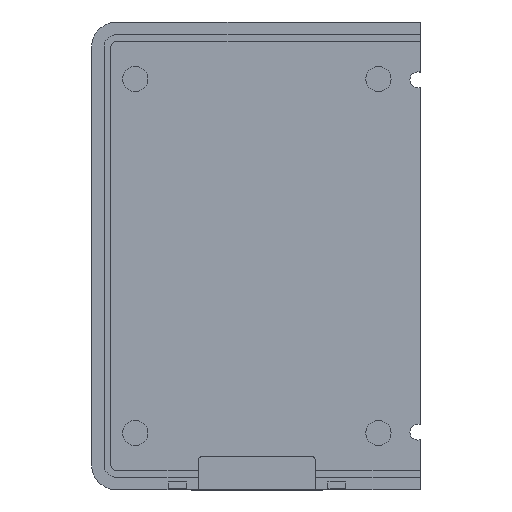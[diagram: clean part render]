
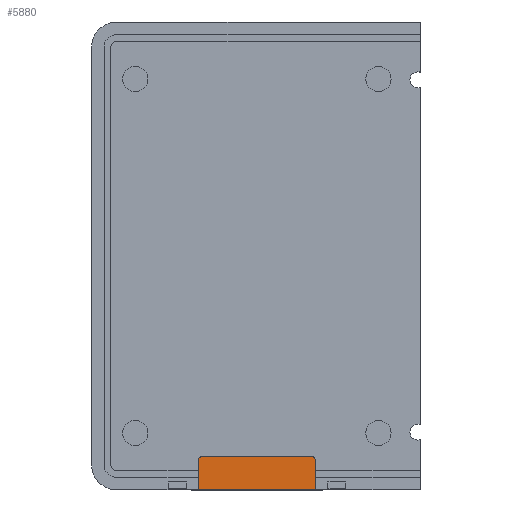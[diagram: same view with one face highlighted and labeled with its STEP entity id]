
A CAD part, top view. The second image highlights one B-rep face of the part: STEP entity #5880.
In plain terms, the highlighted planar face has unit normal (0, 0, 1).
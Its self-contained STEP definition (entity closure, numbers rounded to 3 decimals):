
#186 = PLANE('',#187);
#187 = AXIS2_PLACEMENT_3D('',#188,#189,#190);
#188 = CARTESIAN_POINT('',(-39.5,-27.9,1.));
#189 = DIRECTION('',(-0.,1.,-0.));
#190 = DIRECTION('',(0.,0.,1.));
#1141 = PLANE('',#1142);
#1142 = AXIS2_PLACEMENT_3D('',#1143,#1144,#1145);
#1143 = CARTESIAN_POINT('',(-26.8,-31.9,7.25));
#1144 = DIRECTION('',(1.,0.,-0.));
#1145 = DIRECTION('',(0.,0.,1.));
#2926 = VERTEX_POINT('',#2927);
#2927 = CARTESIAN_POINT('',(-12.8,-27.9,0.25));
#2941 = PLANE('',#2942);
#2942 = AXIS2_PLACEMENT_3D('',#2943,#2944,#2945);
#2943 = CARTESIAN_POINT('',(-12.8,-31.9,7.25));
#2944 = DIRECTION('',(1.,0.,-0.));
#2945 = DIRECTION('',(0.,0.,1.));
#2953 = EDGE_CURVE('',#2954,#2926,#2956,.T.);
#2954 = VERTEX_POINT('',#2955);
#2955 = CARTESIAN_POINT('',(-26.8,-27.9,0.25));
#2956 = SURFACE_CURVE('',#2957,(#2961,#2968),.PCURVE_S1.);
#2957 = LINE('',#2958,#2959);
#2958 = CARTESIAN_POINT('',(-33.15,-27.9,0.25));
#2959 = VECTOR('',#2960,1.);
#2960 = DIRECTION('',(1.,-0.,-0.));
#2961 = PCURVE('',#186,#2962);
#2962 = DEFINITIONAL_REPRESENTATION('',(#2963),#2967);
#2963 = LINE('',#2964,#2965);
#2964 = CARTESIAN_POINT('',(-0.75,6.35));
#2965 = VECTOR('',#2966,1.);
#2966 = DIRECTION('',(-0.,1.));
#2967 = ( GEOMETRIC_REPRESENTATION_CONTEXT(2) 
PARAMETRIC_REPRESENTATION_CONTEXT() REPRESENTATION_CONTEXT('2D SPACE',''
  ) );
#2968 = PCURVE('',#2969,#2974);
#2969 = PLANE('',#2970);
#2970 = AXIS2_PLACEMENT_3D('',#2971,#2972,#2973);
#2971 = CARTESIAN_POINT('',(-26.8,-31.9,0.25));
#2972 = DIRECTION('',(0.,-0.,-1.));
#2973 = DIRECTION('',(-1.,0.,0.));
#2974 = DEFINITIONAL_REPRESENTATION('',(#2975),#2979);
#2975 = LINE('',#2976,#2977);
#2976 = CARTESIAN_POINT('',(6.35,4.));
#2977 = VECTOR('',#2978,1.);
#2978 = DIRECTION('',(-1.,0.));
#2979 = ( GEOMETRIC_REPRESENTATION_CONTEXT(2) 
PARAMETRIC_REPRESENTATION_CONTEXT() REPRESENTATION_CONTEXT('2D SPACE',''
  ) );
#3976 = EDGE_CURVE('',#2954,#3977,#3979,.T.);
#3977 = VERTEX_POINT('',#3978);
#3978 = CARTESIAN_POINT('',(-26.8,-24.4,0.25));
#3979 = SURFACE_CURVE('',#3980,(#3984,#3991),.PCURVE_S1.);
#3980 = LINE('',#3981,#3982);
#3981 = CARTESIAN_POINT('',(-26.8,-31.9,0.25));
#3982 = VECTOR('',#3983,1.);
#3983 = DIRECTION('',(-0.,1.,0.));
#3984 = PCURVE('',#1141,#3985);
#3985 = DEFINITIONAL_REPRESENTATION('',(#3986),#3990);
#3986 = LINE('',#3987,#3988);
#3987 = CARTESIAN_POINT('',(-7.,0.));
#3988 = VECTOR('',#3989,1.);
#3989 = DIRECTION('',(-0.,-1.));
#3990 = ( GEOMETRIC_REPRESENTATION_CONTEXT(2) 
PARAMETRIC_REPRESENTATION_CONTEXT() REPRESENTATION_CONTEXT('2D SPACE',''
  ) );
#3991 = PCURVE('',#2969,#3992);
#3992 = DEFINITIONAL_REPRESENTATION('',(#3993),#3997);
#3993 = LINE('',#3994,#3995);
#3994 = CARTESIAN_POINT('',(-0.,0.));
#3995 = VECTOR('',#3996,1.);
#3996 = DIRECTION('',(-0.,1.));
#3997 = ( GEOMETRIC_REPRESENTATION_CONTEXT(2) 
PARAMETRIC_REPRESENTATION_CONTEXT() REPRESENTATION_CONTEXT('2D SPACE',''
  ) );
#4090 = CYLINDRICAL_SURFACE('',#4091,0.5);
#4091 = AXIS2_PLACEMENT_3D('',#4092,#4093,#4094);
#4092 = CARTESIAN_POINT('',(-26.3,-24.4,7.25));
#4093 = DIRECTION('',(-0.,-0.,-1.));
#4094 = DIRECTION('',(-1.,-0.,-0.));
#4830 = PLANE('',#4831);
#4831 = AXIS2_PLACEMENT_3D('',#4832,#4833,#4834);
#4832 = CARTESIAN_POINT('',(-26.8,-23.9,7.25));
#4833 = DIRECTION('',(-0.,1.,0.));
#4834 = DIRECTION('',(0.,0.,1.));
#4863 = CYLINDRICAL_SURFACE('',#4864,0.5);
#4864 = AXIS2_PLACEMENT_3D('',#4865,#4866,#4867);
#4865 = CARTESIAN_POINT('',(-13.3,-24.4,7.25));
#4866 = DIRECTION('',(-0.,-0.,-1.));
#4867 = DIRECTION('',(1.,-0.,-0.));
#5880 = ADVANCED_FACE('',(#5881),#2969,.F.);
#5881 = FACE_BOUND('',#5882,.T.);
#5882 = EDGE_LOOP('',(#5883,#5884,#5885,#5908,#5936,#5959));
#5883 = ORIENTED_EDGE('',*,*,#3976,.F.);
#5884 = ORIENTED_EDGE('',*,*,#2953,.T.);
#5885 = ORIENTED_EDGE('',*,*,#5886,.T.);
#5886 = EDGE_CURVE('',#2926,#5887,#5889,.T.);
#5887 = VERTEX_POINT('',#5888);
#5888 = CARTESIAN_POINT('',(-12.8,-24.4,0.25));
#5889 = SURFACE_CURVE('',#5890,(#5894,#5901),.PCURVE_S1.);
#5890 = LINE('',#5891,#5892);
#5891 = CARTESIAN_POINT('',(-12.8,-31.9,0.25));
#5892 = VECTOR('',#5893,1.);
#5893 = DIRECTION('',(-0.,1.,0.));
#5894 = PCURVE('',#2969,#5895);
#5895 = DEFINITIONAL_REPRESENTATION('',(#5896),#5900);
#5896 = LINE('',#5897,#5898);
#5897 = CARTESIAN_POINT('',(-14.,0.));
#5898 = VECTOR('',#5899,1.);
#5899 = DIRECTION('',(-0.,1.));
#5900 = ( GEOMETRIC_REPRESENTATION_CONTEXT(2) 
PARAMETRIC_REPRESENTATION_CONTEXT() REPRESENTATION_CONTEXT('2D SPACE',''
  ) );
#5901 = PCURVE('',#2941,#5902);
#5902 = DEFINITIONAL_REPRESENTATION('',(#5903),#5907);
#5903 = LINE('',#5904,#5905);
#5904 = CARTESIAN_POINT('',(-7.,0.));
#5905 = VECTOR('',#5906,1.);
#5906 = DIRECTION('',(-0.,-1.));
#5907 = ( GEOMETRIC_REPRESENTATION_CONTEXT(2) 
PARAMETRIC_REPRESENTATION_CONTEXT() REPRESENTATION_CONTEXT('2D SPACE',''
  ) );
#5908 = ORIENTED_EDGE('',*,*,#5909,.T.);
#5909 = EDGE_CURVE('',#5887,#5910,#5912,.T.);
#5910 = VERTEX_POINT('',#5911);
#5911 = CARTESIAN_POINT('',(-13.3,-23.9,0.25));
#5912 = SURFACE_CURVE('',#5913,(#5918,#5929),.PCURVE_S1.);
#5913 = CIRCLE('',#5914,0.5);
#5914 = AXIS2_PLACEMENT_3D('',#5915,#5916,#5917);
#5915 = CARTESIAN_POINT('',(-13.3,-24.4,0.25));
#5916 = DIRECTION('',(0.,-0.,1.));
#5917 = DIRECTION('',(-0.,-1.,-0.));
#5918 = PCURVE('',#2969,#5919);
#5919 = DEFINITIONAL_REPRESENTATION('',(#5920),#5928);
#5920 = ( BOUNDED_CURVE() B_SPLINE_CURVE(2,(#5921,#5922,#5923,#5924,
#5925,#5926,#5927),.UNSPECIFIED.,.T.,.F.) B_SPLINE_CURVE_WITH_KNOTS((1,2
    ,2,2,2,1),(-2.094,0.,2.094,4.189,
6.283,8.378),.UNSPECIFIED.) CURVE() 
GEOMETRIC_REPRESENTATION_ITEM() RATIONAL_B_SPLINE_CURVE((1.,0.5,1.,0.5,
1.,0.5,1.)) REPRESENTATION_ITEM('') );
#5921 = CARTESIAN_POINT('',(-13.5,7.));
#5922 = CARTESIAN_POINT('',(-14.366,7.));
#5923 = CARTESIAN_POINT('',(-13.933,7.75));
#5924 = CARTESIAN_POINT('',(-13.5,8.5));
#5925 = CARTESIAN_POINT('',(-13.067,7.75));
#5926 = CARTESIAN_POINT('',(-12.634,7.));
#5927 = CARTESIAN_POINT('',(-13.5,7.));
#5928 = ( GEOMETRIC_REPRESENTATION_CONTEXT(2) 
PARAMETRIC_REPRESENTATION_CONTEXT() REPRESENTATION_CONTEXT('2D SPACE',''
  ) );
#5929 = PCURVE('',#4863,#5930);
#5930 = DEFINITIONAL_REPRESENTATION('',(#5931),#5935);
#5931 = LINE('',#5932,#5933);
#5932 = CARTESIAN_POINT('',(1.571,7.));
#5933 = VECTOR('',#5934,1.);
#5934 = DIRECTION('',(-1.,0.));
#5935 = ( GEOMETRIC_REPRESENTATION_CONTEXT(2) 
PARAMETRIC_REPRESENTATION_CONTEXT() REPRESENTATION_CONTEXT('2D SPACE',''
  ) );
#5936 = ORIENTED_EDGE('',*,*,#5937,.F.);
#5937 = EDGE_CURVE('',#5938,#5910,#5940,.T.);
#5938 = VERTEX_POINT('',#5939);
#5939 = CARTESIAN_POINT('',(-26.3,-23.9,0.25));
#5940 = SURFACE_CURVE('',#5941,(#5945,#5952),.PCURVE_S1.);
#5941 = LINE('',#5942,#5943);
#5942 = CARTESIAN_POINT('',(-26.8,-23.9,0.25));
#5943 = VECTOR('',#5944,1.);
#5944 = DIRECTION('',(1.,0.,-0.));
#5945 = PCURVE('',#2969,#5946);
#5946 = DEFINITIONAL_REPRESENTATION('',(#5947),#5951);
#5947 = LINE('',#5948,#5949);
#5948 = CARTESIAN_POINT('',(-0.,8.));
#5949 = VECTOR('',#5950,1.);
#5950 = DIRECTION('',(-1.,0.));
#5951 = ( GEOMETRIC_REPRESENTATION_CONTEXT(2) 
PARAMETRIC_REPRESENTATION_CONTEXT() REPRESENTATION_CONTEXT('2D SPACE',''
  ) );
#5952 = PCURVE('',#4830,#5953);
#5953 = DEFINITIONAL_REPRESENTATION('',(#5954),#5958);
#5954 = LINE('',#5955,#5956);
#5955 = CARTESIAN_POINT('',(-7.,0.));
#5956 = VECTOR('',#5957,1.);
#5957 = DIRECTION('',(-0.,1.));
#5958 = ( GEOMETRIC_REPRESENTATION_CONTEXT(2) 
PARAMETRIC_REPRESENTATION_CONTEXT() REPRESENTATION_CONTEXT('2D SPACE',''
  ) );
#5959 = ORIENTED_EDGE('',*,*,#5960,.F.);
#5960 = EDGE_CURVE('',#3977,#5938,#5961,.T.);
#5961 = SURFACE_CURVE('',#5962,(#5967,#5974),.PCURVE_S1.);
#5962 = CIRCLE('',#5963,0.5);
#5963 = AXIS2_PLACEMENT_3D('',#5964,#5965,#5966);
#5964 = CARTESIAN_POINT('',(-26.3,-24.4,0.25));
#5965 = DIRECTION('',(0.,0.,-1.));
#5966 = DIRECTION('',(-0.,-1.,-0.));
#5967 = PCURVE('',#2969,#5968);
#5968 = DEFINITIONAL_REPRESENTATION('',(#5969),#5973);
#5969 = CIRCLE('',#5970,0.5);
#5970 = AXIS2_PLACEMENT_2D('',#5971,#5972);
#5971 = CARTESIAN_POINT('',(-0.5,7.5));
#5972 = DIRECTION('',(-0.,-1.));
#5973 = ( GEOMETRIC_REPRESENTATION_CONTEXT(2) 
PARAMETRIC_REPRESENTATION_CONTEXT() REPRESENTATION_CONTEXT('2D SPACE',''
  ) );
#5974 = PCURVE('',#4090,#5975);
#5975 = DEFINITIONAL_REPRESENTATION('',(#5976),#5980);
#5976 = LINE('',#5977,#5978);
#5977 = CARTESIAN_POINT('',(-1.571,7.));
#5978 = VECTOR('',#5979,1.);
#5979 = DIRECTION('',(1.,0.));
#5980 = ( GEOMETRIC_REPRESENTATION_CONTEXT(2) 
PARAMETRIC_REPRESENTATION_CONTEXT() REPRESENTATION_CONTEXT('2D SPACE',''
  ) );
